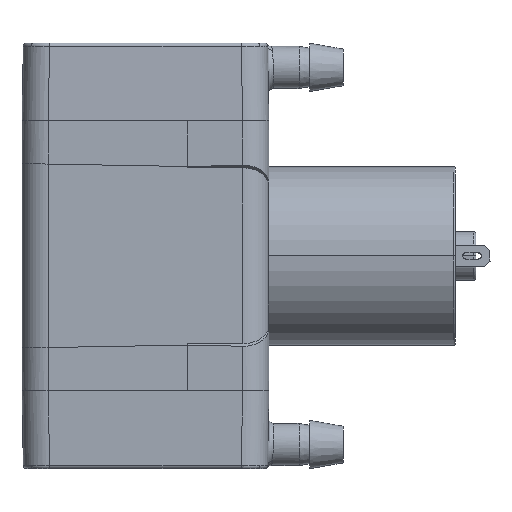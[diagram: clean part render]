
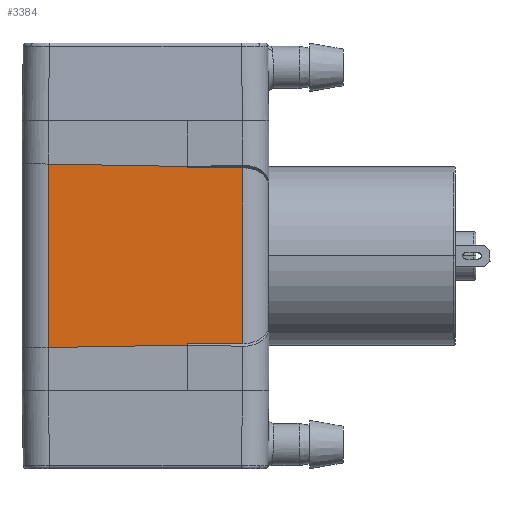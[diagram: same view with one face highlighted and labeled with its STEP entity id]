
A CAD part, top view. The second image highlights one B-rep face of the part: STEP entity #3384.
In plain terms, the highlighted planar face has unit normal (0, 0, 1).
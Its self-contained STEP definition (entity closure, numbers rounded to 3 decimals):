
#32 = VERTEX_POINT ( 'NONE', #926 ) ;
#420 = ORIENTED_EDGE ( 'NONE', *, *, #7230, .T. ) ;
#637 = VECTOR ( 'NONE', #18187, 1000. ) ;
#926 = CARTESIAN_POINT ( 'NONE',  ( -14.25, 8.731, 11.75 ) ) ;
#991 = VERTEX_POINT ( 'NONE', #17860 ) ;
#1797 = CARTESIAN_POINT ( 'NONE',  ( -1., -8.5, 11.75 ) ) ;
#2455 = DIRECTION ( 'NONE',  ( 1., 0.017, 0. ) ) ;
#2752 = VECTOR ( 'NONE', #2455, 1000. ) ;
#2783 = CARTESIAN_POINT ( 'NONE',  ( -14.25, -8.775, 11.75 ) ) ;
#2921 = VECTOR ( 'NONE', #11002, 1000. ) ;
#3384 = ADVANCED_FACE ( 'NONE', ( #9087 ), #8412, .T. ) ;
#3948 = CARTESIAN_POINT ( 'NONE',  ( -14.25, -8.375, 11.75 ) ) ;
#4261 = CARTESIAN_POINT ( 'NONE',  ( -14.25, -8.731, 11.75 ) ) ;
#4488 = LINE ( 'NONE', #14728, #4946 ) ;
#4792 = EDGE_CURVE ( 'NONE', #16317, #32, #12140, .T. ) ;
#4946 = VECTOR ( 'NONE', #16178, 1000. ) ;
#5060 = VECTOR ( 'NONE', #5427, 1000. ) ;
#5174 = CARTESIAN_POINT ( 'NONE',  ( 4.25, 8.375, 11.75 ) ) ;
#5427 = DIRECTION ( 'NONE',  ( -1., 0., 0. ) ) ;
#6254 = EDGE_CURVE ( 'NONE', #32, #991, #9590, .T. ) ;
#6692 = LINE ( 'NONE', #17994, #10058 ) ;
#7156 = DIRECTION ( 'NONE',  ( 1., 0., 0. ) ) ;
#7230 = EDGE_CURVE ( 'NONE', #16317, #13664, #14724, .T. ) ;
#7338 = DIRECTION ( 'NONE',  ( 0., 0., 1. ) ) ;
#7430 = CARTESIAN_POINT ( 'NONE',  ( -1., -8.375, 11.75 ) ) ;
#8412 = PLANE ( 'NONE',  #11260 ) ;
#8970 = EDGE_CURVE ( 'NONE', #991, #17296, #14431, .T. ) ;
#9087 = FACE_OUTER_BOUND ( 'NONE', #16053, .T. ) ;
#9590 = LINE ( 'NONE', #13947, #12453 ) ;
#9603 = CARTESIAN_POINT ( 'NONE',  ( -1., 8.775, 11.75 ) ) ;
#9636 = CARTESIAN_POINT ( 'NONE',  ( -14.25, -8.775, 11.75 ) ) ;
#9844 = DIRECTION ( 'NONE',  ( 0., 1., 0. ) ) ;
#10058 = VECTOR ( 'NONE', #10900, 1000. ) ;
#10113 = VERTEX_POINT ( 'NONE', #10306 ) ;
#10306 = CARTESIAN_POINT ( 'NONE',  ( 4.25, -8.375, 11.75 ) ) ;
#10900 = DIRECTION ( 'NONE',  ( 0., 1., 0. ) ) ;
#11002 = DIRECTION ( 'NONE',  ( 0., -1., 0. ) ) ;
#11260 = AXIS2_PLACEMENT_3D ( 'NONE', #2783, #7338, #7156 ) ;
#12101 = ORIENTED_EDGE ( 'NONE', *, *, #13629, .T. ) ;
#12140 = LINE ( 'NONE', #9636, #637 ) ;
#12359 = VERTEX_POINT ( 'NONE', #7430 ) ;
#12453 = VECTOR ( 'NONE', #16831, 1000. ) ;
#12676 = LINE ( 'NONE', #3948, #5060 ) ;
#13629 = EDGE_CURVE ( 'NONE', #14808, #17296, #4488, .T. ) ;
#13664 = VERTEX_POINT ( 'NONE', #1797 ) ;
#13773 = ORIENTED_EDGE ( 'NONE', *, *, #17635, .T. ) ;
#13947 = CARTESIAN_POINT ( 'NONE',  ( -16.75, 8.775, 11.75 ) ) ;
#14300 = ORIENTED_EDGE ( 'NONE', *, *, #4792, .F. ) ;
#14431 = LINE ( 'NONE', #9603, #2921 ) ;
#14724 = LINE ( 'NONE', #18283, #2752 ) ;
#14728 = CARTESIAN_POINT ( 'NONE',  ( -14.25, 8.375, 11.75 ) ) ;
#14808 = VERTEX_POINT ( 'NONE', #5174 ) ;
#15177 = LINE ( 'NONE', #16979, #16521 ) ;
#15657 = EDGE_CURVE ( 'NONE', #13664, #12359, #6692, .T. ) ;
#15821 = CARTESIAN_POINT ( 'NONE',  ( -1., 8.375, 11.75 ) ) ;
#15871 = ORIENTED_EDGE ( 'NONE', *, *, #17152, .F. ) ;
#16053 = EDGE_LOOP ( 'NONE', ( #15871, #13773, #12101, #18101, #16822, #14300, #420, #16182 ) ) ;
#16178 = DIRECTION ( 'NONE',  ( -1., 0., 0. ) ) ;
#16182 = ORIENTED_EDGE ( 'NONE', *, *, #15657, .T. ) ;
#16317 = VERTEX_POINT ( 'NONE', #4261 ) ;
#16521 = VECTOR ( 'NONE', #9844, 1000. ) ;
#16822 = ORIENTED_EDGE ( 'NONE', *, *, #6254, .F. ) ;
#16831 = DIRECTION ( 'NONE',  ( 1., -0.017, 0. ) ) ;
#16979 = CARTESIAN_POINT ( 'NONE',  ( 4.25, -8.775, 11.75 ) ) ;
#17152 = EDGE_CURVE ( 'NONE', #10113, #12359, #12676, .T. ) ;
#17296 = VERTEX_POINT ( 'NONE', #15821 ) ;
#17635 = EDGE_CURVE ( 'NONE', #10113, #14808, #15177, .T. ) ;
#17860 = CARTESIAN_POINT ( 'NONE',  ( -1., 8.5, 11.75 ) ) ;
#17994 = CARTESIAN_POINT ( 'NONE',  ( -1., -8.775, 11.75 ) ) ;
#18101 = ORIENTED_EDGE ( 'NONE', *, *, #8970, .F. ) ;
#18187 = DIRECTION ( 'NONE',  ( 0., 1., 0. ) ) ;
#18283 = CARTESIAN_POINT ( 'NONE',  ( -16.75, -8.775, 11.75 ) ) ;
